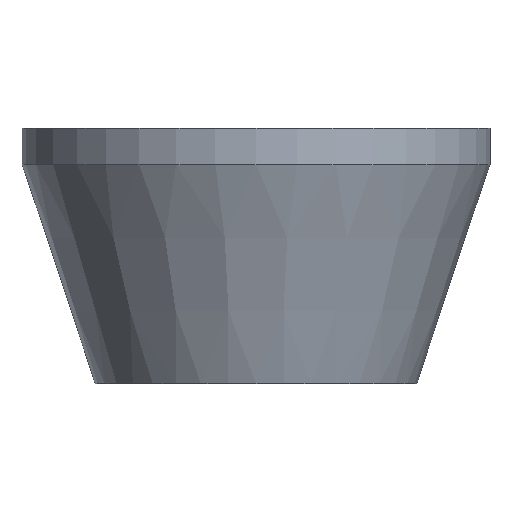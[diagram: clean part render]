
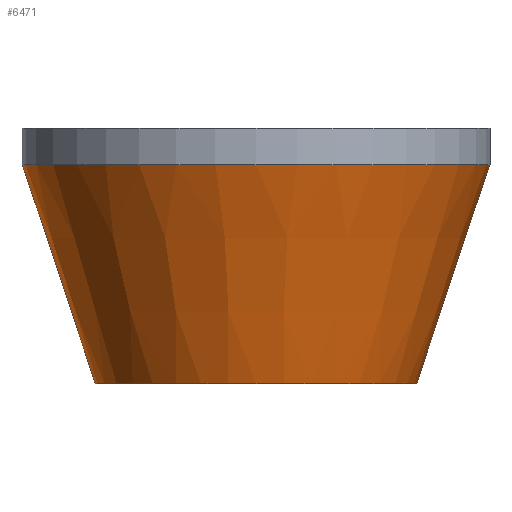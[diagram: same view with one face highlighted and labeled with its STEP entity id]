
A CAD part, left-side view. The second image highlights one B-rep face of the part: STEP entity #6471.
In plain terms, the highlighted conical face has half-angle 18.435 degrees and reference radius 32 mm.
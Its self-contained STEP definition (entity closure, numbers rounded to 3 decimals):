
#17=CONICAL_SURFACE('',#7368,32.,0.322);
#608=FACE_OUTER_BOUND('',#1481,.T.);
#1481=EDGE_LOOP('',(#5020,#5021,#5022,#5023));
#1777=LINE('',#10912,#2071);
#2071=VECTOR('',#8860,32.);
#2941=CIRCLE('',#7364,32.);
#2943=CIRCLE('',#7369,22.);
#3527=VERTEX_POINT('',#10901);
#3529=VERTEX_POINT('',#10910);
#4119=EDGE_CURVE('',#3527,#3527,#2941,.T.);
#4122=EDGE_CURVE('',#3529,#3529,#2943,.T.);
#4123=EDGE_CURVE('',#3529,#3527,#1777,.T.);
#5020=ORIENTED_EDGE('',*,*,#4122,.T.);
#5021=ORIENTED_EDGE('',*,*,#4123,.T.);
#5022=ORIENTED_EDGE('',*,*,#4119,.T.);
#5023=ORIENTED_EDGE('',*,*,#4123,.F.);
#6471=ADVANCED_FACE('',(#608),#17,.T.);
#7364=AXIS2_PLACEMENT_3D('',#10903,#8847,#8848);
#7368=AXIS2_PLACEMENT_3D('',#10909,#8856,#8857);
#7369=AXIS2_PLACEMENT_3D('',#10911,#8858,#8859);
#8847=DIRECTION('center_axis',(0.,0.,-1.));
#8848=DIRECTION('ref_axis',(-1.,0.,0.));
#8856=DIRECTION('center_axis',(0.,0.,1.));
#8857=DIRECTION('ref_axis',(-1.,0.,0.));
#8858=DIRECTION('center_axis',(0.,0.,1.));
#8859=DIRECTION('ref_axis',(1.,0.,0.));
#8860=DIRECTION('',(0.316,0.,0.949));
#10901=CARTESIAN_POINT('',(32.,0.,30.));
#10903=CARTESIAN_POINT('Origin',(0.,0.,30.));
#10909=CARTESIAN_POINT('Origin',(0.,0.,30.));
#10910=CARTESIAN_POINT('',(22.,0.,0.));
#10911=CARTESIAN_POINT('Origin',(0.,0.,0.));
#10912=CARTESIAN_POINT('',(32.,0.,30.));
